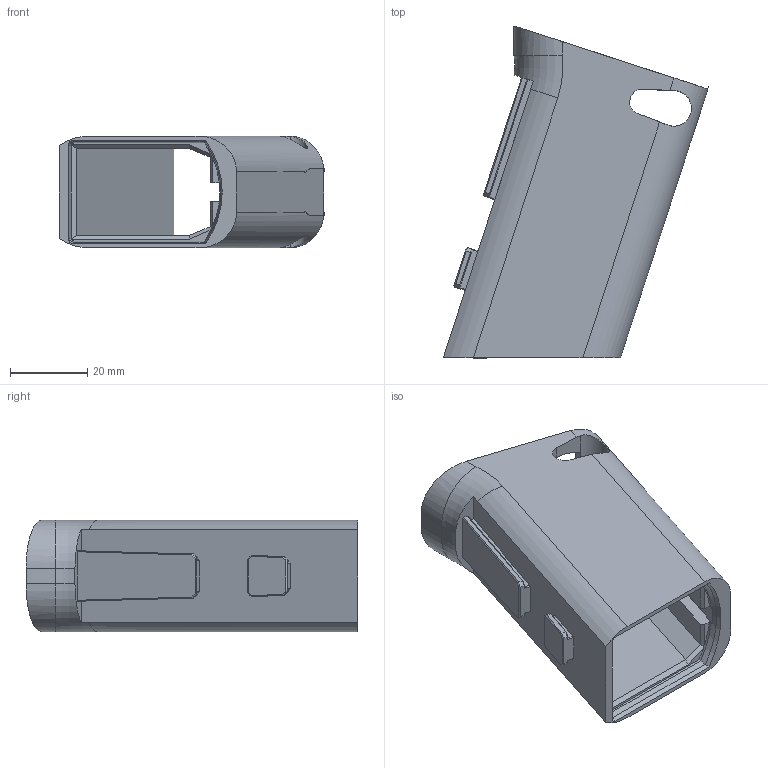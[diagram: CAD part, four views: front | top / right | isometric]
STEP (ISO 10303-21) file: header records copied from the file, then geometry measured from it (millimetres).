
FILE_DESCRIPTION(/* description */ (''),/* implementation_level */ '2;1');
FILE_NAME(/* name */ 'C:/Users/Bob/Desktop/FNS-940_Magwell_1 v1.step',/* time_stamp */ '2021-06-04T19:32:38-07:00',/* author */ (''),/* organization */ (''),/* preprocessor_version */ 'ST-DEVELOPER v18.1',/* originating_system */ 'Autodesk Translation Framework v10.9.0.1377',/* authorisation */ '');
FILE_SCHEMA (('AUTOMOTIVE_DESIGN { 1 0 10303 214 3 1 1 }'));
Length unit declared in the file: millimetre
Products named in the file (5): FNS-940_Magwell_1; Main Frame; Compact Size Grip; Standard Size Grip; Standard Size Grip (Stopgap)
Assembly tree (4 placements, depth 2):
  FNS-940_Magwell_1
    Main Frame
    Compact Size Grip
    Standard Size Grip
    Standard Size Grip (Stopgap)
Bounding box: 68.88 x 86.17 x 29 mm (x, y, z)
Volume: 38200.2 mm3; surface area: 21822.7 mm2
Topology: 1 solids, 1 shells, 150 faces, 423 edges, 272 vertices
Faces by surface type: plane 120, cylinder 18, torus 6, cone 4, bspline 2
Entity records: 5210 total; most frequent: CARTESIAN_POINT 1177, ORIENTED_EDGE 846, DIRECTION 784, EDGE_CURVE 423, LINE 328, VECTOR 328, VERTEX_POINT 272, AXIS2_PLACEMENT_3D 228
